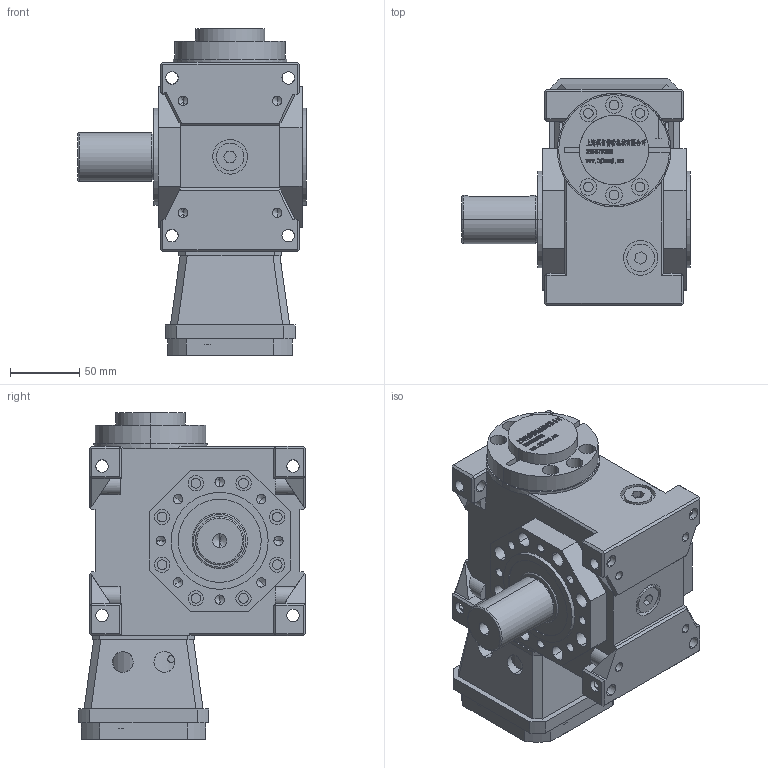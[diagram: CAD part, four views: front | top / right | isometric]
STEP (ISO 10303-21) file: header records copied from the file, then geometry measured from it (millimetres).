
FILE_DESCRIPTION (( 'STEP AP203' ), '1' );
FILE_NAME ('FXLB050-(5~90)-ASL-19-70-90-M6.step', '2022-11-06T03:52:23', ( '' ), ( '' ), 'SwSTEP 2.0', 'SolidWorks 2020', '' );
FILE_SCHEMA (( 'CONFIG_CONTROL_DESIGN' ));
Length unit declared in the file: millimetre
Products named in the file (8): FXLB050-(5~90)-ASL-19-70-90-M6; JDLB050-ST94________.step; ST90-70-90-M6____________.step; FXLB050-(5~90)-ASL-19-70-90-M6.step; 錨璃185^FXLB050-(5~90)-ASL-19-70-90-M6; ______BD56-60-19-15____.step; JDLB050-ASR________35.step; JDLB050-CR____.step
Assembly tree (7 placements, depth 3):
  FXLB050-(5~90)-ASL-19-70-90-M6
    FXLB050-(5~90)-ASL-19-70-90-M6.step
      JDLB050-CR____.step
      JDLB050-ST94________.step
      ST90-70-90-M6____________.step
      ______BD56-60-19-15____.step
      JDLB050-ASR________35.step
    錨璃185^FXLB050-(5~90)-ASL-19-70-90-M6
Bounding box: 165 x 164 x 236.2 mm (x, y, z)
Volume: 2313666 mm3; surface area: 310460.5 mm2
Topology: 82 solids, 82 shells, 2650 faces, 6987 edges, 4563 vertices
Faces by surface type: plane 1553, bspline 572, cylinder 425, cone 78, torus 22
Entity records: 109554 total; most frequent: CARTESIAN_POINT 46639, ORIENTED_EDGE 13850, DIRECTION 10792, EDGE_CURVE 6925, VECTOR 4766, LINE 4766, VERTEX_POINT 4563, AXIS2_PLACEMENT_3D 3013
